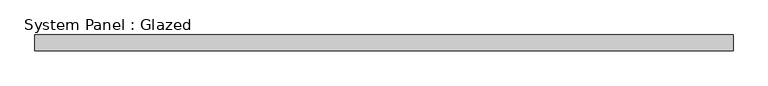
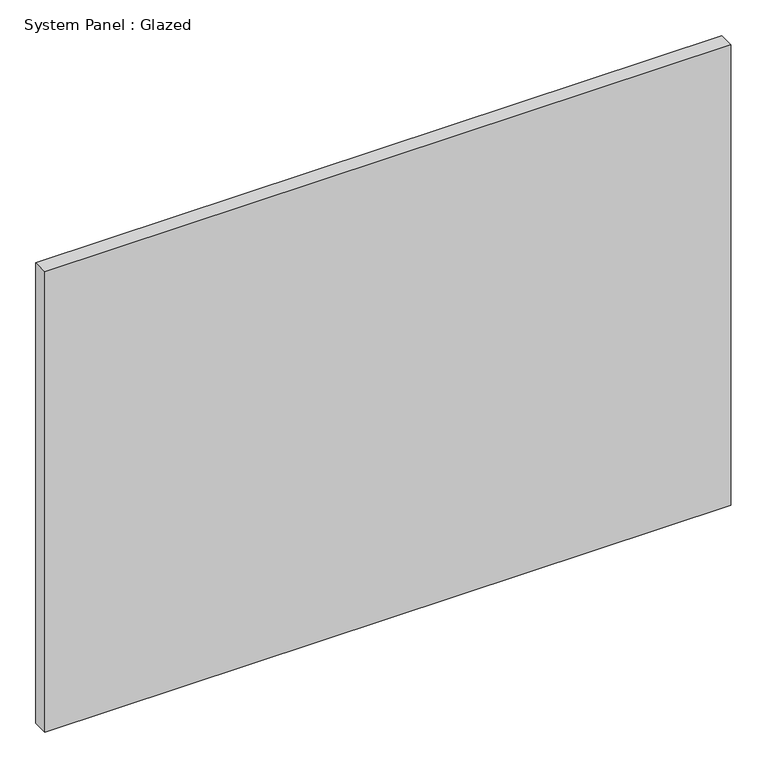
"""IFC4 building model written with IfcOpenShell, lengths in millimetres: plate geometry, System Panel : Glazed."""

from ifc_helpers import new_model, si_unit, origin, origin_with_axes, place, context, project, spatial, polyline, outline, extrude, source, transform, mapped, element, save


def system_panel_glazed_79ec670e(model_context):
    return source(origin(), model_context, "Body", "SweptSolid", [
        extrude(outline(polyline([(554.9235595, 19.05), (-554.9235595, 19.05), (-554.9235595, 44.45), (554.9235595, 44.45), (554.9235595, 19.05)])), origin_with_axes(), (0.0, 0.0, 1.0), 787.4),
    ])


if __name__ == "__main__":
    model = new_model("IFC4")
    model_context = context("Model", 3, world=origin())
    ifc_project = project(units=[si_unit("LENGTHUNIT", "METRE", prefix="MILLI")], contexts=[model_context])
    site = spatial("IfcSite", under=ifc_project)
    building = spatial("IfcBuilding", under=site)
    placement = place(None, origin())
    system_panel_glazed_shape = system_panel_glazed_79ec670e(model_context)
    element("IfcPlate", 1, ObjectType="System Panel : Glazed", at=placement, inside=building, context=model_context, shape_type="MappedRepresentation", body=[
        mapped(system_panel_glazed_shape, transform((0.0, 0.0, 0.0), x_axis=(1.0, 0.0, 0.0), y_axis=(0.0, 1.0, 0.0), z_axis=(0.0, 0.0, 1.0))),
    ])
    save(model, "model.ifc")
